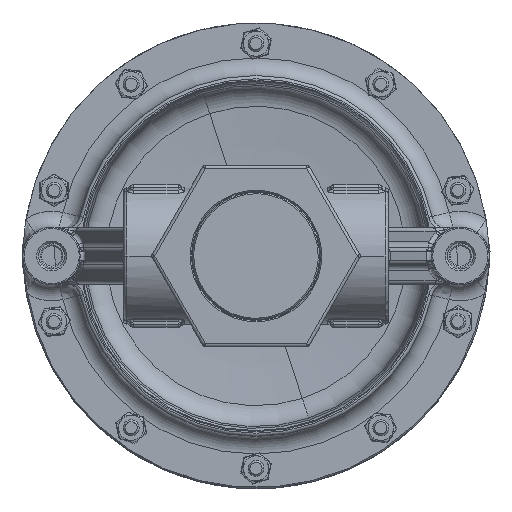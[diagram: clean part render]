
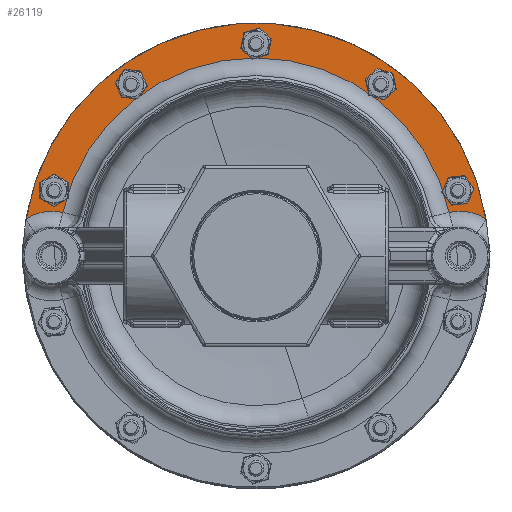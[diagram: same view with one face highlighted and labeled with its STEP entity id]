
A CAD part, front view. The second image highlights one B-rep face of the part: STEP entity #26119.
In plain terms, the highlighted planar face has unit normal (0, -1, 0) as drawn and (0, 0, -1) by its records, which use the part's own axes.
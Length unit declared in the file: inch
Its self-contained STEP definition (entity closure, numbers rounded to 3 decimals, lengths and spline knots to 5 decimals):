
#5210 = AXIS2_PLACEMENT_3D ( 'NONE', #22562, #22563, #22564 ) ;
#5212 = AXIS2_PLACEMENT_3D ( 'NONE', #22568, #22569, #22570 ) ;
#5228 = AXIS2_PLACEMENT_3D ( 'NONE', #22630, #22631, #22632 ) ;
#5229 = AXIS2_PLACEMENT_3D ( 'NONE', #22633, #22634, #22635 ) ;
#5230 = AXIS2_PLACEMENT_3D ( 'NONE', #22638, #22639, #22640 ) ;
#5237 = AXIS2_PLACEMENT_3D ( 'NONE', #22663, #22664, #22665 ) ;
#5254 = AXIS2_PLACEMENT_3D ( 'NONE', #22883, #22885, #22887 ) ;
#5257 = AXIS2_PLACEMENT_3D ( 'NONE', #22911, #22912, #22913 ) ;
#5271 = AXIS2_PLACEMENT_3D ( 'NONE', #23023, #23025, #23027 ) ;
#7083 = EDGE_LOOP ( 'NONE', ( #24851, #24852 ) ) ;
#14349 = CARTESIAN_POINT ( 'NONE',  ( 1.78641, -2.67987, 0. ) ) ;
#14350 = CARTESIAN_POINT ( 'NONE',  ( 2.10766, -2.67987, 0. ) ) ;
#16007 = EDGE_LOOP ( 'NONE', ( #24859, #24860 ) ) ;
#16392 = EDGE_CURVE ( 'NONE', #109921, #109924, #36225, .T. ) ;
#16471 = EDGE_CURVE ( 'NONE', #21318, #21319, #36245, .T. ) ;
#16532 = EDGE_CURVE ( 'NONE', #28977, #28978, #36274, .T. ) ;
#18125 = EDGE_CURVE ( 'NONE', #21349, #21350, #36955, .T. ) ;
#18506 = EDGE_CURVE ( 'NONE', #28963, #28964, #53139, .T. ) ;
#18630 = AXIS2_PLACEMENT_3D ( 'NONE', #41312, #41313, #41314 ) ;
#18665 = AXIS2_PLACEMENT_3D ( 'NONE', #41441, #41442, #41443 ) ;
#18684 = AXIS2_PLACEMENT_3D ( 'NONE', #41548, #41549, #41550 ) ;
#19313 = AXIS2_PLACEMENT_3D ( 'NONE', #50152, #50154, #50156 ) ;
#19460 = AXIS2_PLACEMENT_3D ( 'NONE', #54416, #54418, #54420 ) ;
#19734 = AXIS2_PLACEMENT_3D ( 'NONE', #63803, #63798, #63805 ) ;
#20319 = CARTESIAN_POINT ( 'NONE',  ( -2.10766, -2.67987, 0. ) ) ;
#20320 = CARTESIAN_POINT ( 'NONE',  ( -1.78641, -2.67987, 0. ) ) ;
#20334 = CARTESIAN_POINT ( 'NONE',  ( 2.98975, -1.02362, 0. ) ) ;
#20335 = CARTESIAN_POINT ( 'NONE',  ( 3.311, -1.02362, 0. ) ) ;
#21318 = VERTEX_POINT ( 'NONE', #54827 ) ;
#21319 = VERTEX_POINT ( 'NONE', #54829 ) ;
#21349 = VERTEX_POINT ( 'NONE', #54885 ) ;
#21350 = VERTEX_POINT ( 'NONE', #54887 ) ;
#21632 = CARTESIAN_POINT ( 'NONE',  ( 3.01463, -0.67832, 0. ) ) ;
#21634 = CARTESIAN_POINT ( 'NONE',  ( 3.5867, -0.57501, 0. ) ) ;
#21643 = CARTESIAN_POINT ( 'NONE',  ( -3.5867, -0.57501, 0. ) ) ;
#21645 = CARTESIAN_POINT ( 'NONE',  ( -3.01463, -0.67832, 0. ) ) ;
#22562 = CARTESIAN_POINT ( 'NONE',  ( -3.1875, 0., 0. ) ) ;
#22563 = DIRECTION ( 'NONE',  ( 0., 0., 1. ) ) ;
#22564 = DIRECTION ( 'NONE',  ( 1., 0., 0. ) ) ;
#22568 = CARTESIAN_POINT ( 'NONE',  ( 3.1875, 0., 0. ) ) ;
#22569 = DIRECTION ( 'NONE',  ( 0., 0., 1. ) ) ;
#22570 = DIRECTION ( 'NONE',  ( 1., 0., 0. ) ) ;
#22630 = CARTESIAN_POINT ( 'NONE',  ( -3.15037, -1.02362, 0. ) ) ;
#22631 = DIRECTION ( 'NONE',  ( 0., 0., 1. ) ) ;
#22632 = DIRECTION ( 'NONE',  ( 1., 0., 0. ) ) ;
#22633 = CARTESIAN_POINT ( 'NONE',  ( 0., 0., 0. ) ) ;
#22634 = DIRECTION ( 'NONE',  ( 0., 0., 1. ) ) ;
#22635 = DIRECTION ( 'NONE',  ( 1., 0., 0. ) ) ;
#22638 = CARTESIAN_POINT ( 'NONE',  ( 0., 0., 0. ) ) ;
#22639 = DIRECTION ( 'NONE',  ( 0., 0., -1. ) ) ;
#22640 = DIRECTION ( 'NONE',  ( 1., 0., 0. ) ) ;
#22663 = CARTESIAN_POINT ( 'NONE',  ( 3.15037, -1.02362, 0. ) ) ;
#22664 = DIRECTION ( 'NONE',  ( 0., 0., 1. ) ) ;
#22665 = DIRECTION ( 'NONE',  ( 1., 0., 0. ) ) ;
#22883 = CARTESIAN_POINT ( 'NONE',  ( -1.94704, -2.67987, 0. ) ) ;
#22885 = DIRECTION ( 'NONE',  ( 0., 0., 1. ) ) ;
#22887 = DIRECTION ( 'NONE',  ( 1., 0., 0. ) ) ;
#22911 = CARTESIAN_POINT ( 'NONE',  ( 0., -3.3125, 0. ) ) ;
#22912 = DIRECTION ( 'NONE',  ( 0., 0., 1. ) ) ;
#22913 = DIRECTION ( 'NONE',  ( 1., 0., 0. ) ) ;
#23023 = CARTESIAN_POINT ( 'NONE',  ( 1.94704, -2.67987, 0. ) ) ;
#23025 = DIRECTION ( 'NONE',  ( 0., 0., 1. ) ) ;
#23027 = DIRECTION ( 'NONE',  ( 1., 0., 0. ) ) ;
#24851 = ORIENTED_EDGE ( 'NONE', *, *, #16532, .T. ) ;
#24852 = ORIENTED_EDGE ( 'NONE', *, *, #52389, .T. ) ;
#24853 = ORIENTED_EDGE ( 'NONE', *, *, #16392, .T. ) ;
#24854 = ORIENTED_EDGE ( 'NONE', *, *, #52440, .T. ) ;
#24855 = ORIENTED_EDGE ( 'NONE', *, *, #16471, .T. ) ;
#24856 = ORIENTED_EDGE ( 'NONE', *, *, #52424, .T. ) ;
#24857 = ORIENTED_EDGE ( 'NONE', *, *, #18506, .T. ) ;
#24858 = ORIENTED_EDGE ( 'NONE', *, *, #52419, .T. ) ;
#24859 = ORIENTED_EDGE ( 'NONE', *, *, #18125, .T. ) ;
#24860 = ORIENTED_EDGE ( 'NONE', *, *, #52379, .T. ) ;
#24861 = ORIENTED_EDGE ( 'NONE', *, *, #52359, .T. ) ;
#24862 = ORIENTED_EDGE ( 'NONE', *, *, #52381, .T. ) ;
#24863 = ORIENTED_EDGE ( 'NONE', *, *, #52357, .T. ) ;
#24864 = ORIENTED_EDGE ( 'NONE', *, *, #52380, .T. ) ;
#26119 = ADVANCED_FACE ( 'NONE', ( #53249, #53234, #53247, #53242, #53250, #53252 ), #63802, .F. ) ;
#28963 = VERTEX_POINT ( 'NONE', #20319 ) ;
#28964 = VERTEX_POINT ( 'NONE', #20320 ) ;
#28977 = VERTEX_POINT ( 'NONE', #20334 ) ;
#28978 = VERTEX_POINT ( 'NONE', #20335 ) ;
#35870 = VERTEX_POINT ( 'NONE', #21632 ) ;
#35872 = VERTEX_POINT ( 'NONE', #21634 ) ;
#35882 = VERTEX_POINT ( 'NONE', #21643 ) ;
#35884 = VERTEX_POINT ( 'NONE', #21645 ) ;
#36225 = CIRCLE ( 'NONE', #18630, 0.16063 ) ;
#36245 = CIRCLE ( 'NONE', #18665, 0.16063 ) ;
#36274 = CIRCLE ( 'NONE', #18684, 0.16062 ) ;
#36955 = CIRCLE ( 'NONE', #19313, 0.16062 ) ;
#40908 = EDGE_LOOP ( 'NONE', ( #24861, #24862, #24863, #24864 ) ) ;
#41312 = CARTESIAN_POINT ( 'NONE',  ( 1.94704, -2.67987, 0. ) ) ;
#41313 = DIRECTION ( 'NONE',  ( 0., 0., 1. ) ) ;
#41314 = DIRECTION ( 'NONE',  ( 1., 0., 0. ) ) ;
#41441 = CARTESIAN_POINT ( 'NONE',  ( 0., -3.3125, 0. ) ) ;
#41442 = DIRECTION ( 'NONE',  ( 0., 0., 1. ) ) ;
#41443 = DIRECTION ( 'NONE',  ( 1., 0., 0. ) ) ;
#41548 = CARTESIAN_POINT ( 'NONE',  ( 3.15037, -1.02362, 0. ) ) ;
#41549 = DIRECTION ( 'NONE',  ( 0., 0., 1. ) ) ;
#41550 = DIRECTION ( 'NONE',  ( 1., 0., 0. ) ) ;
#50152 = CARTESIAN_POINT ( 'NONE',  ( -3.15037, -1.02362, 0. ) ) ;
#50154 = DIRECTION ( 'NONE',  ( 0., 0., 1. ) ) ;
#50156 = DIRECTION ( 'NONE',  ( 1., 0., 0. ) ) ;
#52078 = EDGE_LOOP ( 'NONE', ( #24855, #24856 ) ) ;
#52357 = EDGE_CURVE ( 'NONE', #35882, #35884, #99428, .T. ) ;
#52359 = EDGE_CURVE ( 'NONE', #35870, #35872, #99432, .T. ) ;
#52379 = EDGE_CURVE ( 'NONE', #21350, #21349, #99461, .T. ) ;
#52380 = EDGE_CURVE ( 'NONE', #35884, #35870, #99463, .T. ) ;
#52381 = EDGE_CURVE ( 'NONE', #35872, #35882, #99464, .T. ) ;
#52389 = EDGE_CURVE ( 'NONE', #28978, #28977, #99476, .T. ) ;
#52419 = EDGE_CURVE ( 'NONE', #28964, #28963, #99506, .T. ) ;
#52424 = EDGE_CURVE ( 'NONE', #21319, #21318, #99517, .T. ) ;
#52440 = EDGE_CURVE ( 'NONE', #109924, #109921, #99544, .T. ) ;
#53139 = CIRCLE ( 'NONE', #19460, 0.16063 ) ;
#53234 = FACE_BOUND ( 'NONE', #115226, .T. ) ;
#53242 = FACE_BOUND ( 'NONE', #115221, .T. ) ;
#53247 = FACE_BOUND ( 'NONE', #52078, .T. ) ;
#53249 = FACE_BOUND ( 'NONE', #7083, .T. ) ;
#53250 = FACE_BOUND ( 'NONE', #16007, .T. ) ;
#53252 = FACE_OUTER_BOUND ( 'NONE', #40908, .T. ) ;
#54416 = CARTESIAN_POINT ( 'NONE',  ( -1.94704, -2.67987, 0. ) ) ;
#54418 = DIRECTION ( 'NONE',  ( 0., 0., 1. ) ) ;
#54420 = DIRECTION ( 'NONE',  ( 1., 0., 0. ) ) ;
#54827 = CARTESIAN_POINT ( 'NONE',  ( -0.16063, -3.3125, 0. ) ) ;
#54829 = CARTESIAN_POINT ( 'NONE',  ( 0.16063, -3.3125, 0. ) ) ;
#54885 = CARTESIAN_POINT ( 'NONE',  ( -3.311, -1.02362, 0. ) ) ;
#54887 = CARTESIAN_POINT ( 'NONE',  ( -2.98975, -1.02362, 0. ) ) ;
#63798 = DIRECTION ( 'NONE',  ( 0., 0., 1. ) ) ;
#63802 = PLANE ( 'NONE',  #19734 ) ;
#63803 = CARTESIAN_POINT ( 'NONE',  ( 0., 3.6875, 0. ) ) ;
#63805 = DIRECTION ( 'NONE',  ( 1., 0., 0. ) ) ;
#99428 = CIRCLE ( 'NONE', #5210, 0.7 ) ;
#99432 = CIRCLE ( 'NONE', #5212, 0.7 ) ;
#99461 = CIRCLE ( 'NONE', #5228, 0.16062 ) ;
#99463 = CIRCLE ( 'NONE', #5229, 3.09 ) ;
#99464 = CIRCLE ( 'NONE', #5230, 3.6325 ) ;
#99476 = CIRCLE ( 'NONE', #5237, 0.16062 ) ;
#99506 = CIRCLE ( 'NONE', #5254, 0.16063 ) ;
#99517 = CIRCLE ( 'NONE', #5257, 0.16063 ) ;
#99544 = CIRCLE ( 'NONE', #5271, 0.16063 ) ;
#109921 = VERTEX_POINT ( 'NONE', #14349 ) ;
#109924 = VERTEX_POINT ( 'NONE', #14350 ) ;
#115221 = EDGE_LOOP ( 'NONE', ( #24857, #24858 ) ) ;
#115226 = EDGE_LOOP ( 'NONE', ( #24853, #24854 ) ) ;
